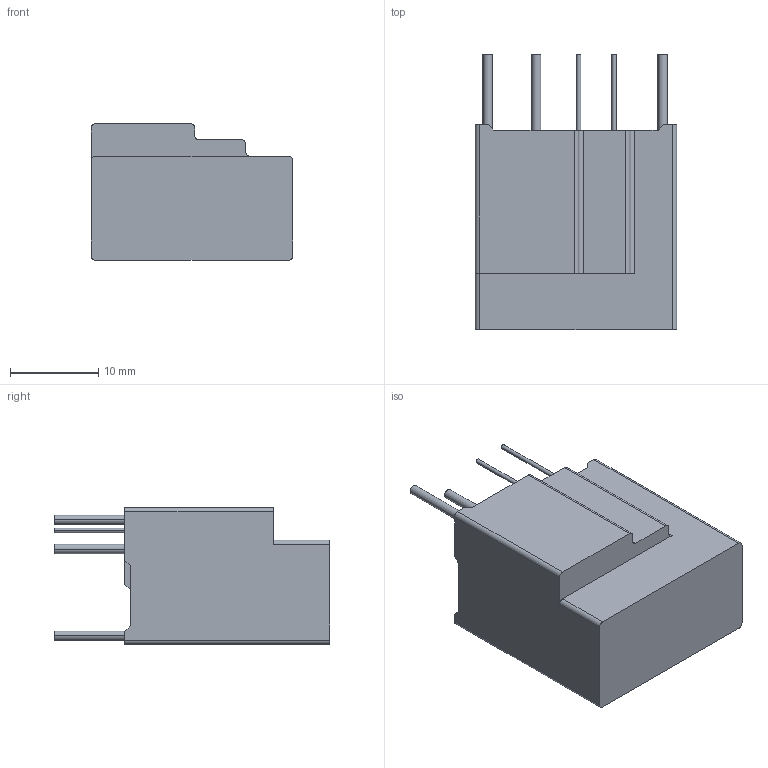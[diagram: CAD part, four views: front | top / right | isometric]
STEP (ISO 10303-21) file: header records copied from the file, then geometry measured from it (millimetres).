
FILE_DESCRIPTION((''),'2;1');
FILE_NAME('20S4701-IT-20200616','2020-06-18T',('set'),(''),'PRO/ENGINEER BY PARAMETRIC TECHNOLOGY CORPORATION, 2012310','PRO/ENGINEER BY PARAMETRIC TECHNOLOGY CORPORATION, 2012310','');
FILE_SCHEMA(('CONFIG_CONTROL_DESIGN','SHAPE_APPEARANCE_LAYERS_GROUPS'));
Length unit declared in the file: millimetre
Products named in the file (1): 20S4701-IT-20200616
Bounding box: 22.8 x 31.2 x 15.5 mm (x, y, z)
Volume: 1724.2 mm3; surface area: 4485.6 mm2
Topology: 1 solids, 2 shells, 110 faces, 303 edges, 202 vertices
Faces by surface type: plane 80, cylinder 30
Entity records: 3536 total; most frequent: CARTESIAN_POINT 615, ORIENTED_EDGE 606, DIRECTION 583, EDGE_CURVE 303, VECTOR 243, LINE 243, VERTEX_POINT 202, AXIS2_PLACEMENT_3D 170
